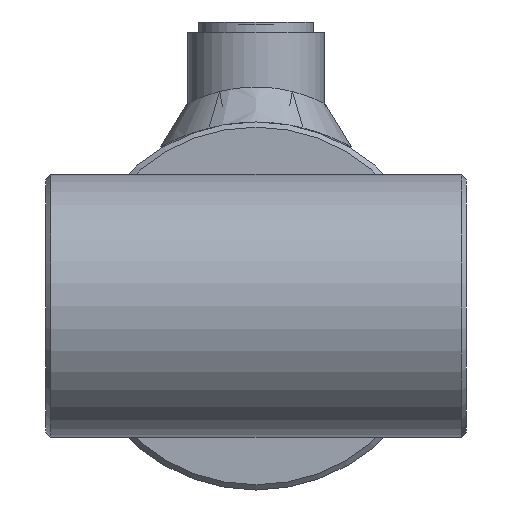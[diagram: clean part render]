
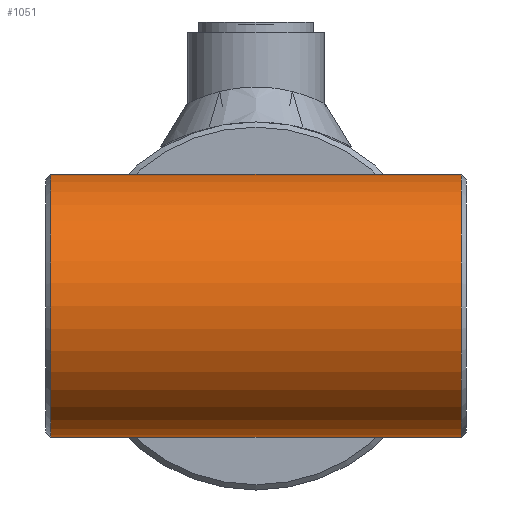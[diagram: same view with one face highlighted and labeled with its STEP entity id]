
A CAD part, left-side view. The second image highlights one B-rep face of the part: STEP entity #1051.
In plain terms, the highlighted cylindrical face has radius 25 mm (diameter 50 mm), a full revolution.
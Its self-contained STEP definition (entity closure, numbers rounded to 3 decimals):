
#1051 = ADVANCED_FACE( '', ( #1972, #1973 ), #1974, .T. );
#1972 = FACE_OUTER_BOUND( '', #8781, .T. );
#1973 = FACE_OUTER_BOUND( '', #8782, .T. );
#1974 = CYLINDRICAL_SURFACE( '', #8783, 25. );
#8781 = EDGE_LOOP( '', ( #11700 ) );
#8782 = EDGE_LOOP( '', ( #11701 ) );
#8783 = AXIS2_PLACEMENT_3D( '', #11702, #11703, #11704 );
#11700 = ORIENTED_EDGE( '', *, *, #12707, .T. );
#11701 = ORIENTED_EDGE( '', *, *, #12764, .T. );
#11702 = CARTESIAN_POINT( '', ( 0., -40., 0. ) );
#11703 = DIRECTION( '', ( 0., -1., 0. ) );
#11704 = DIRECTION( '', ( 0., 0., 1. ) );
#12707 = EDGE_CURVE( '', #13740, #13740, #13741, .F. );
#12764 = EDGE_CURVE( '', #13816, #13816, #13817, .T. );
#13740 = VERTEX_POINT( '', #16546 );
#13741 = CIRCLE( '', #16547, 25. );
#13816 = VERTEX_POINT( '', #16949 );
#13817 = CIRCLE( '', #16950, 25. );
#16546 = CARTESIAN_POINT( '', ( 0., 39., 25. ) );
#16547 = AXIS2_PLACEMENT_3D( '', #17811, #17812, #17813 );
#16949 = CARTESIAN_POINT( '', ( 0., -39., 25. ) );
#16950 = AXIS2_PLACEMENT_3D( '', #17842, #17843, #17844 );
#17811 = CARTESIAN_POINT( '', ( 0., 39., 0. ) );
#17812 = DIRECTION( '', ( 0., 1., 0. ) );
#17813 = DIRECTION( '', ( 0., 0., 1. ) );
#17842 = CARTESIAN_POINT( '', ( 0., -39., 0. ) );
#17843 = DIRECTION( '', ( 0., 1., 0. ) );
#17844 = DIRECTION( '', ( 0., 0., 1. ) );
